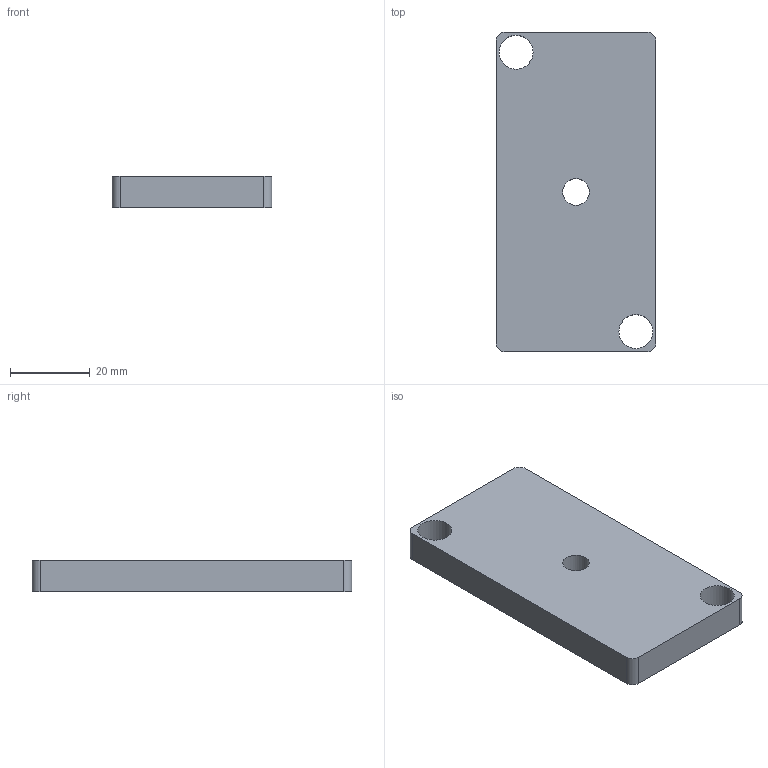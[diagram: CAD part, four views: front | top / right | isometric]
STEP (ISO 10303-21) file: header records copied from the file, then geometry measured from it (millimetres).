
FILE_DESCRIPTION(/* description */ ('ENDPLATE FOR FOOT M8, PROFILE 40x80'),/* implementation_level */ '2;1');
FILE_NAME(/* name */ '\\carryline.intra\privat\users\mathias\Desktop\Tillfälliga filer\100-1181.stp',/* time_stamp */ '2018-11-19T11:08:15+01:00',/* author */ ('ML'),/* organization */ ('CARRYLINE'),/* preprocessor_version */ 'ST-DEVELOPER v17',/* originating_system */ 'Autodesk Inventor 2018',/* authorisation */ '');
FILE_SCHEMA (('AUTOMOTIVE_DESIGN { 1 0 10303 214 3 1 1 }'));
Length unit declared in the file: millimetre
Products named in the file (1): 100-1181
Bounding box: 40 x 80 x 8 mm (x, y, z)
Volume: 24387 mm3; surface area: 8583.6 mm2
Topology: 1 solids, 1 shells, 13 faces, 36 edges, 25 vertices
Faces by surface type: cylinder 7, plane 6
Full cylindrical faces by diameter (mm): 6.647 x1, 8.5 x2
Entity records: 482 total; most frequent: DIRECTION 81, CARTESIAN_POINT 75, ORIENTED_EDGE 72, EDGE_CURVE 36, AXIS2_PLACEMENT_3D 31, VERTEX_POINT 25, EDGE_LOOP 19, LINE 19
